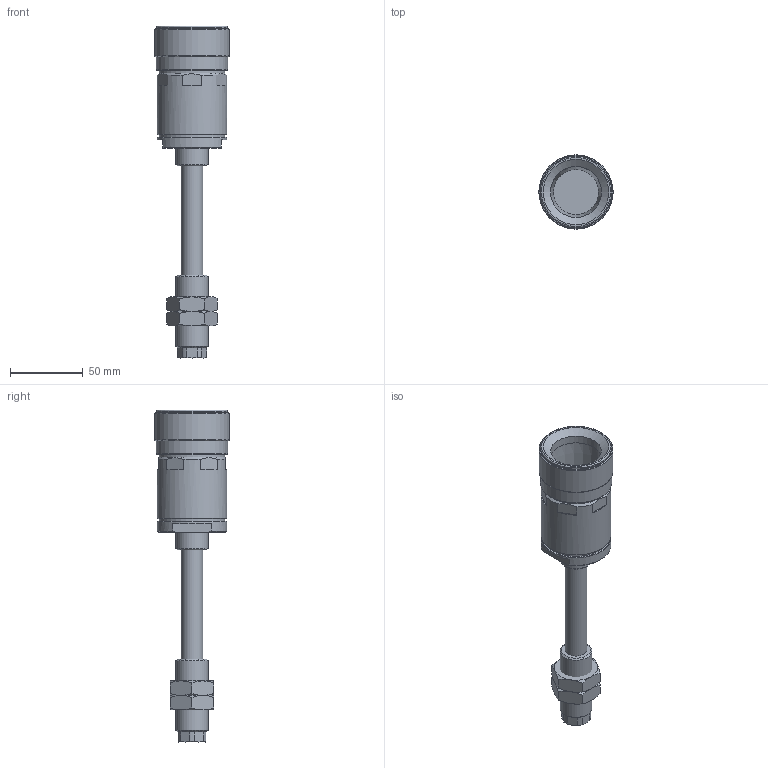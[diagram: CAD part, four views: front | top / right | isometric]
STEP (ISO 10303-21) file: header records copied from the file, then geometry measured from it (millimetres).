
FILE_DESCRIPTION(('STEP AP203'),'1');
FILE_NAME(').stp','2021-06-21T07:31:23',(' '),(' '),'Spatial InterOp 3D',' ',' ');
FILE_SCHEMA(('CONFIG_CONTROL_DESIGN'));
Length unit declared in the file: millimetre
Products named in the file (5): SGC-31L-50-T; SGC-31L-ZZ; 取付具; ナット
Assembly tree (4 placements, depth 2):
  SGC-31L-50-T
    SGC-31L-ZZ
    取付具
    ナット
    ナット
Bounding box: 51 x 51 x 228.2 mm (x, y, z)
Volume: 123493.2 mm3; surface area: 47945.9 mm2
Topology: 4 solids, 4 shells, 134 faces, 285 edges, 174 vertices
Faces by surface type: plane 57, cone 45, cylinder 27, torus 5
Full cylindrical faces by diameter (mm): 8 x1, 8.2 x1, 11.7 x1, 13 x1, 15 x3, 16 x1, 20.376 x2, 22 x2, 31 x1, 35 x1, 45 x2, 48 x2, 49 x2, 51 x1
Entity records: 3872 total; most frequent: CARTESIAN_POINT 951, DIRECTION 566, ORIENTED_EDGE 484, AXIS2_PLACEMENT_3D 255, EDGE_CURVE 242, EDGE_LOOP 194, VERTEX_POINT 170, FACE_OUTER_BOUND 160
